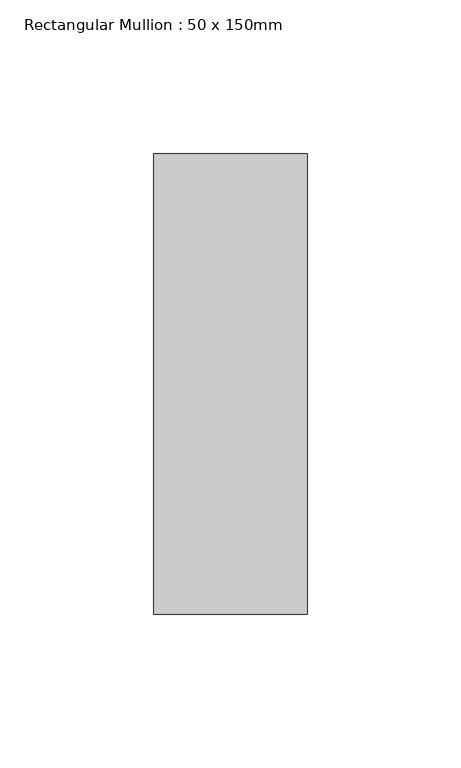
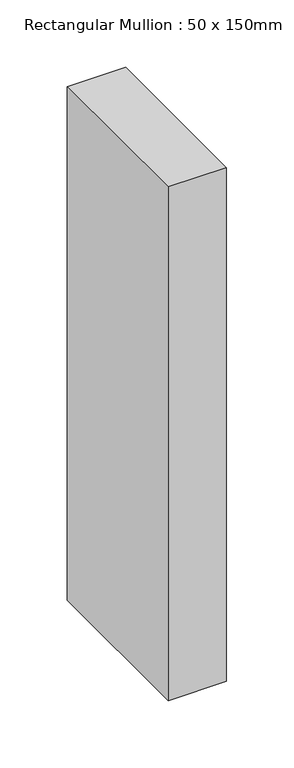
"""IFC4 building model written with IfcOpenShell, lengths in millimetres: member geometry, Rectangular Mullion : 50 x 150mm."""

from ifc_helpers import new_model, si_unit, frame, origin, place, context, project, spatial, polyline, outline, extrude, source, transform, mapped, element, save


def rectangular_mullion_50_x_150mm_1184de41(model_context):
    return source(origin(), model_context, "Body", "SweptSolid", [
        extrude(outline(polyline([(0.0, 0.0), (-0.0723054, -50.0), (-466.2068887, -50.0), (-466.3111958, 0.0), (0.0, 0.0)])), frame((0.0, -75.0, 0.0), z_axis=(0.0, 1.0, 0.0), x_axis=(0.0, 0.0, 1.0)), (0.0, 0.0, 1.0), 150.0),
    ])


if __name__ == "__main__":
    model = new_model("IFC4")
    model_context = context("Model", 3, world=origin())
    ifc_project = project(units=[si_unit("LENGTHUNIT", "METRE", prefix="MILLI")], contexts=[model_context])
    site = spatial("IfcSite", under=ifc_project)
    building = spatial("IfcBuilding", under=site)
    placement = place(None, origin())
    rectangular_mullion_50_x_150mm_shape = rectangular_mullion_50_x_150mm_1184de41(model_context)
    element("IfcMember", 1, ObjectType="Rectangular Mullion : 50 x 150mm", at=placement, inside=building, context=model_context, shape_type="MappedRepresentation", body=[
        mapped(rectangular_mullion_50_x_150mm_shape, transform((0.0, 0.0, 0.0), x_axis=(1.0, 0.0, 0.0), y_axis=(0.0, 1.0, 0.0), z_axis=(0.0, 0.0, 1.0))),
    ])
    save(model, "model.ifc")
